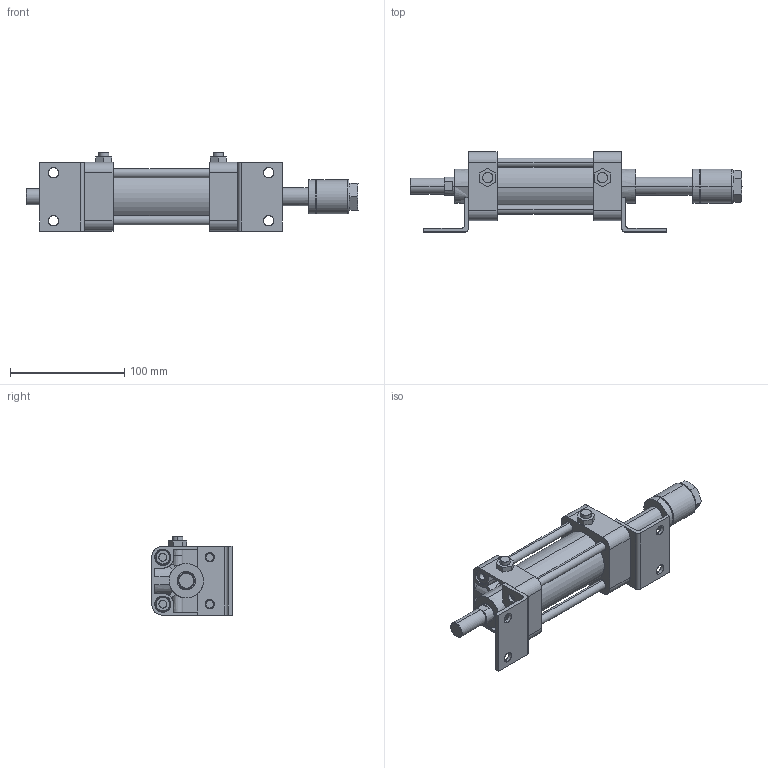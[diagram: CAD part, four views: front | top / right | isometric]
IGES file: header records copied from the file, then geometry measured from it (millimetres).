
Start section: SolidWorks IGES file using analytic representation for surfaces
Global section: file name: C:\Users\Toshiba\Desktop\KGA7-40#-50-L.IGS; native system: SolidWorks 2014; preprocessor: SolidWorks 2014; author: Toshiba; date: 160414.154750; units: millimetre
Bounding box: 290 x 70 x 68.3 mm (x, y, z)
Surface area: 113662.8 mm2 (no closed solid volume)
Topology: 0 solids, 0 shells, 451 faces, 7065 edges, 7031 vertices
Faces by surface type: revolution 226, bspline 225
